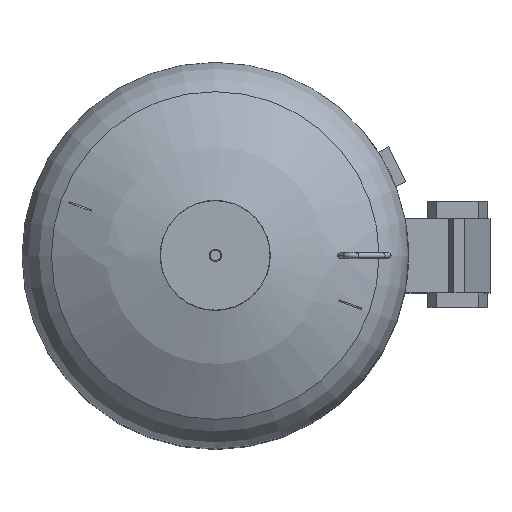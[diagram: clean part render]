
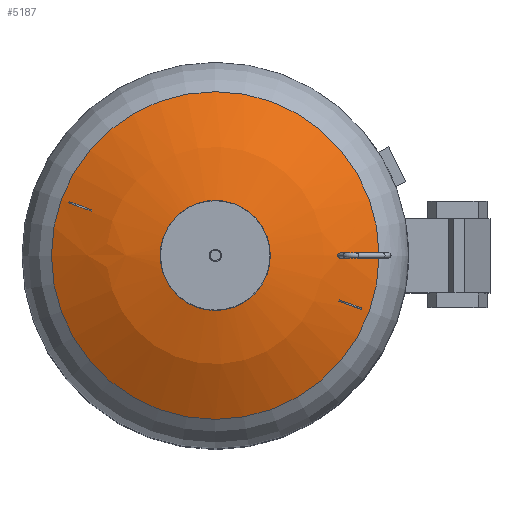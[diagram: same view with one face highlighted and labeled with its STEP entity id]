
A CAD part, top view. The second image highlights one B-rep face of the part: STEP entity #5187.
In plain terms, the highlighted spherical face has radius 967.7 mm.
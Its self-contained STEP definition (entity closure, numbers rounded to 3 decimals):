
#19=SPHERICAL_SURFACE('',#5566,967.7);
#142=FACE_BOUND('',#608,.T.);
#241=B_SPLINE_CURVE_WITH_KNOTS('',3,(#7773,#7774,#7775,#7776,#7777,#7778,
#7779,#7780,#7781,#7782,#7783,#7784,#7785,#7786,#7787,#7788,#7789,#7790),
 .UNSPECIFIED.,.F.,.F.,(4,2,2,2,2,2,2,2,4),(0.,0.302,0.605,
0.906,1.207,1.508,1.81,2.112,
2.414),.UNSPECIFIED.);
#242=B_SPLINE_CURVE_WITH_KNOTS('',3,(#7791,#7792,#7793,#7794,#7795,#7796,
#7797,#7798,#7799,#7800,#7801,#7802,#7803,#7804,#7805,#7806,#7807,#7808),
 .UNSPECIFIED.,.F.,.F.,(4,2,2,2,2,2,2,2,4),(2.414,2.717,
3.019,3.32,3.622,3.923,4.224,
4.526,4.829),.UNSPECIFIED.);
#314=FACE_OUTER_BOUND('',#607,.T.);
#607=EDGE_LOOP('',(#3604,#3605,#3606,#3607,#3608,#3609));
#608=EDGE_LOOP('',(#3610,#3611));
#1733=CIRCLE('',#5564,153.);
#1734=CIRCLE('',#5565,153.);
#1735=CIRCLE('',#5567,967.7);
#1736=CIRCLE('',#5568,508.692);
#1737=CIRCLE('',#5569,508.692);
#1989=VERTEX_POINT('',#7770);
#1990=VERTEX_POINT('',#7772);
#2107=VERTEX_POINT('',#8183);
#2108=VERTEX_POINT('',#8184);
#2109=VERTEX_POINT('',#8189);
#2110=VERTEX_POINT('',#8191);
#2518=EDGE_CURVE('',#1990,#1989,#241,.T.);
#2519=EDGE_CURVE('',#1989,#1990,#242,.T.);
#2687=EDGE_CURVE('',#2107,#2108,#1733,.T.);
#2688=EDGE_CURVE('',#2108,#2107,#1734,.T.);
#2690=EDGE_CURVE('',#2107,#2109,#1735,.T.);
#2691=EDGE_CURVE('',#2110,#2109,#1736,.T.);
#2692=EDGE_CURVE('',#2109,#2110,#1737,.T.);
#3604=ORIENTED_EDGE('',*,*,#2687,.T.);
#3605=ORIENTED_EDGE('',*,*,#2688,.T.);
#3606=ORIENTED_EDGE('',*,*,#2690,.T.);
#3607=ORIENTED_EDGE('',*,*,#2691,.F.);
#3608=ORIENTED_EDGE('',*,*,#2692,.F.);
#3609=ORIENTED_EDGE('',*,*,#2690,.F.);
#3610=ORIENTED_EDGE('',*,*,#2518,.T.);
#3611=ORIENTED_EDGE('',*,*,#2519,.T.);
#5187=ADVANCED_FACE('',(#314,#142),#19,.T.);
#5564=AXIS2_PLACEMENT_3D('',#8185,#6392,#6393);
#5565=AXIS2_PLACEMENT_3D('',#8186,#6394,#6395);
#5566=AXIS2_PLACEMENT_3D('',#8188,#6397,#6398);
#5567=AXIS2_PLACEMENT_3D('',#8190,#6399,#6400);
#5568=AXIS2_PLACEMENT_3D('',#8192,#6401,#6402);
#5569=AXIS2_PLACEMENT_3D('',#8193,#6403,#6404);
#6392=DIRECTION('center_axis',(0.,0.,-1.));
#6393=DIRECTION('ref_axis',(1.,0.,0.));
#6394=DIRECTION('center_axis',(0.,0.,-1.));
#6395=DIRECTION('ref_axis',(1.,0.,0.));
#6397=DIRECTION('center_axis',(0.,0.,1.));
#6398=DIRECTION('ref_axis',(1.,0.,0.));
#6399=DIRECTION('center_axis',(0.,-1.,0.));
#6400=DIRECTION('ref_axis',(-1.,0.,0.));
#6401=DIRECTION('center_axis',(0.,0.,-1.));
#6402=DIRECTION('ref_axis',(1.,0.,0.));
#6403=DIRECTION('center_axis',(0.,0.,-1.));
#6404=DIRECTION('ref_axis',(1.,0.,0.));
#7770=CARTESIAN_POINT('',(387.431,-8.,2165.403));
#7772=CARTESIAN_POINT('',(387.431,8.,2165.403));
#7773=CARTESIAN_POINT('Ctrl Pts',(387.431,8.,2165.403));
#7774=CARTESIAN_POINT('Ctrl Pts',(388.355,8.,2165.));
#7775=CARTESIAN_POINT('Ctrl Pts',(389.34,7.799,2164.569));
#7776=CARTESIAN_POINT('Ctrl Pts',(391.152,6.982,2163.777));
#7777=CARTESIAN_POINT('Ctrl Pts',(391.98,6.365,2163.416));
#7778=CARTESIAN_POINT('Ctrl Pts',(393.284,4.944,2162.846));
#7779=CARTESIAN_POINT('Ctrl Pts',(393.85,4.045,2162.599));
#7780=CARTESIAN_POINT('Ctrl Pts',(394.599,2.075,2162.271));
#7781=CARTESIAN_POINT('Ctrl Pts',(394.784,1.004,2162.19));
#7782=CARTESIAN_POINT('Ctrl Pts',(394.784,-1.004,2162.19));
#7783=CARTESIAN_POINT('Ctrl Pts',(394.599,-2.075,2162.271));
#7784=CARTESIAN_POINT('Ctrl Pts',(393.85,-4.045,2162.599));
#7785=CARTESIAN_POINT('Ctrl Pts',(393.284,-4.944,2162.846));
#7786=CARTESIAN_POINT('Ctrl Pts',(391.98,-6.365,2163.416));
#7787=CARTESIAN_POINT('Ctrl Pts',(391.152,-6.982,2163.777));
#7788=CARTESIAN_POINT('Ctrl Pts',(389.34,-7.799,2164.569));
#7789=CARTESIAN_POINT('Ctrl Pts',(388.355,-8.,2165.));
#7790=CARTESIAN_POINT('Ctrl Pts',(387.431,-8.,2165.403));
#7791=CARTESIAN_POINT('Ctrl Pts',(387.431,-8.,2165.403));
#7792=CARTESIAN_POINT('Ctrl Pts',(386.508,-8.,2165.807));
#7793=CARTESIAN_POINT('Ctrl Pts',(385.523,-7.799,2166.237));
#7794=CARTESIAN_POINT('Ctrl Pts',(383.71,-6.982,2167.029));
#7795=CARTESIAN_POINT('Ctrl Pts',(382.883,-6.365,2167.39));
#7796=CARTESIAN_POINT('Ctrl Pts',(381.578,-4.944,2167.96));
#7797=CARTESIAN_POINT('Ctrl Pts',(381.013,-4.045,2168.207));
#7798=CARTESIAN_POINT('Ctrl Pts',(380.263,-2.075,2168.535));
#7799=CARTESIAN_POINT('Ctrl Pts',(380.079,-1.004,2168.615));
#7800=CARTESIAN_POINT('Ctrl Pts',(380.079,1.004,2168.615));
#7801=CARTESIAN_POINT('Ctrl Pts',(380.263,2.075,2168.535));
#7802=CARTESIAN_POINT('Ctrl Pts',(381.013,4.045,2168.207));
#7803=CARTESIAN_POINT('Ctrl Pts',(381.578,4.944,2167.96));
#7804=CARTESIAN_POINT('Ctrl Pts',(382.883,6.365,2167.39));
#7805=CARTESIAN_POINT('Ctrl Pts',(383.71,6.982,2167.029));
#7806=CARTESIAN_POINT('Ctrl Pts',(385.523,7.799,2166.237));
#7807=CARTESIAN_POINT('Ctrl Pts',(386.508,8.,2165.807));
#7808=CARTESIAN_POINT('Ctrl Pts',(387.431,8.,2165.403));
#8183=CARTESIAN_POINT('',(-153.,0.,2234.209));
#8184=CARTESIAN_POINT('',(153.,0.,2234.209));
#8185=CARTESIAN_POINT('Origin',(0.,0.,2234.209));
#8186=CARTESIAN_POINT('Origin',(0.,0.,2234.209));
#8188=CARTESIAN_POINT('Origin',(0.,0.,1278.681));
#8189=CARTESIAN_POINT('',(-508.692,0.,2101.892));
#8190=CARTESIAN_POINT('Origin',(0.,0.,1278.681));
#8191=CARTESIAN_POINT('',(508.692,0.,2101.892));
#8192=CARTESIAN_POINT('Origin',(0.,0.,2101.892));
#8193=CARTESIAN_POINT('Origin',(0.,0.,2101.892));
